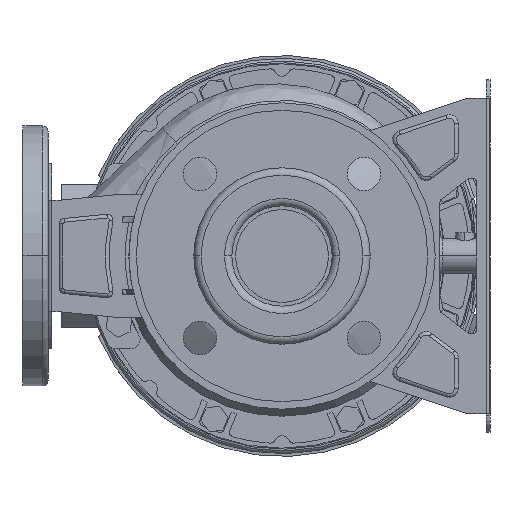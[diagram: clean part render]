
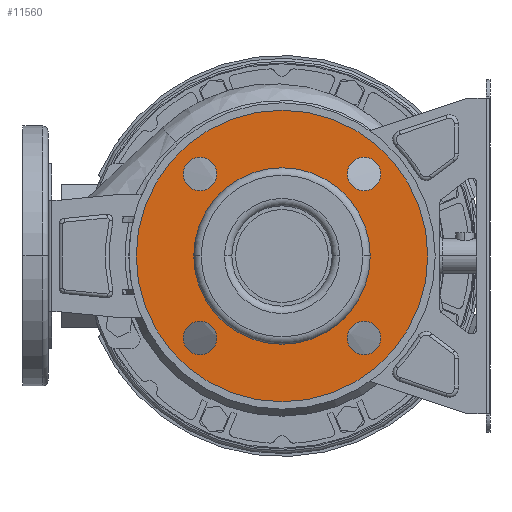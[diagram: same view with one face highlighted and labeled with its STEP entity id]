
A CAD part, left-side view. The second image highlights one B-rep face of the part: STEP entity #11560.
In plain terms, the highlighted planar face has unit normal (-1, 0, 0).
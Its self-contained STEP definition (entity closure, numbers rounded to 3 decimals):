
#10893=CARTESIAN_POINT('',(12.,0.,0.));
#10894=DIRECTION('',(-1.,0.,0.));
#10895=DIRECTION('',(0.,1.,0.));
#10896=AXIS2_PLACEMENT_3D('',#10893,#10894,#10895);
#10901=CARTESIAN_POINT('',(12.,0.,0.));
#10902=DIRECTION('',(1.,0.,0.));
#10903=DIRECTION('',(0.,1.,0.));
#10904=AXIS2_PLACEMENT_3D('',#10901,#10902,#10903);
#10909=CARTESIAN_POINT('',(12.,-44.194,44.194));
#10910=DIRECTION('',(1.,0.,0.));
#10911=DIRECTION('',(0.,1.,0.));
#10912=AXIS2_PLACEMENT_3D('',#10909,#10910,#10911);
#10917=CARTESIAN_POINT('',(12.,-44.194,44.194));
#10918=DIRECTION('',(1.,0.,0.));
#10919=DIRECTION('',(0.,-1.,0.));
#10920=AXIS2_PLACEMENT_3D('',#10917,#10918,#10919);
#10925=CARTESIAN_POINT('',(12.,-44.194,-44.194));
#10926=DIRECTION('',(1.,0.,0.));
#10927=DIRECTION('',(0.,0.,1.));
#10928=AXIS2_PLACEMENT_3D('',#10925,#10926,#10927);
#10933=CARTESIAN_POINT('',(12.,-44.194,-44.194));
#10934=DIRECTION('',(1.,0.,0.));
#10935=DIRECTION('',(0.,0.,-1.));
#10936=AXIS2_PLACEMENT_3D('',#10933,#10934,#10935);
#10941=CARTESIAN_POINT('',(12.,44.194,-44.194));
#10942=DIRECTION('',(1.,0.,0.));
#10943=DIRECTION('',(0.,-1.,0.));
#10944=AXIS2_PLACEMENT_3D('',#10941,#10942,#10943);
#10949=CARTESIAN_POINT('',(12.,44.194,-44.194));
#10950=DIRECTION('',(1.,0.,0.));
#10951=DIRECTION('',(0.,1.,0.));
#10952=AXIS2_PLACEMENT_3D('',#10949,#10950,#10951);
#10957=CARTESIAN_POINT('',(12.,44.194,44.194));
#10958=DIRECTION('',(1.,0.,0.));
#10959=DIRECTION('',(0.,0.,-1.));
#10960=AXIS2_PLACEMENT_3D('',#10957,#10958,#10959);
#10965=CARTESIAN_POINT('',(12.,44.194,44.194));
#10966=DIRECTION('',(1.,0.,0.));
#10967=DIRECTION('',(0.,0.,1.));
#10968=AXIS2_PLACEMENT_3D('',#10965,#10966,#10967);
#10973=CARTESIAN_POINT('',(12.,0.,0.));
#10974=DIRECTION('',(1.,0.,0.));
#10975=DIRECTION('',(0.,1.,0.));
#10976=AXIS2_PLACEMENT_3D('',#10973,#10974,#10975);
#10995=CARTESIAN_POINT('',(12.,0.,0.));
#10996=DIRECTION('',(-1.,0.,0.));
#10997=DIRECTION('',(0.,1.,0.));
#10998=AXIS2_PLACEMENT_3D('',#10995,#10996,#10997);
#11160=CARTESIAN_POINT('',(12.,78.5,0.));
#11162=VERTEX_POINT('',#11160);
#11163=CARTESIAN_POINT('',(12.,47.5,0.));
#11165=VERTEX_POINT('',#11163);
#11192=CARTESIAN_POINT('',(12.,-78.5,0.));
#11194=VERTEX_POINT('',#11192);
#11195=CARTESIAN_POINT('',(12.,-47.5,0.));
#11197=VERTEX_POINT('',#11195);
#11207=CARTESIAN_POINT('',(12.,-35.194,44.194));
#11208=CARTESIAN_POINT('',(12.,-53.194,44.194));
#11209=VERTEX_POINT('',#11207);
#11210=VERTEX_POINT('',#11208);
#11215=CARTESIAN_POINT('',(12.,-44.194,-35.194));
#11216=CARTESIAN_POINT('',(12.,-44.194,-53.194));
#11217=VERTEX_POINT('',#11215);
#11218=VERTEX_POINT('',#11216);
#11223=CARTESIAN_POINT('',(12.,35.194,-44.194));
#11224=CARTESIAN_POINT('',(12.,53.194,-44.194));
#11225=VERTEX_POINT('',#11223);
#11226=VERTEX_POINT('',#11224);
#11231=CARTESIAN_POINT('',(12.,44.194,35.194));
#11232=CARTESIAN_POINT('',(12.,44.194,53.194));
#11233=VERTEX_POINT('',#11231);
#11234=VERTEX_POINT('',#11232);
#11521=CARTESIAN_POINT('',(12.,0.,0.));
#11522=DIRECTION('',(1.,0.,0.));
#11523=DIRECTION('',(0.,-1.,0.));
#11524=AXIS2_PLACEMENT_3D('',#11521,#11522,#11523);
#11525=PLANE('',#11524);
#11526=ORIENTED_EDGE('',*,*,#11514,.F.);
#11527=ORIENTED_EDGE('',*,*,#11503,.T.);
#11528=EDGE_LOOP('',(#11526,#11527));
#11529=FACE_OUTER_BOUND('',#11528,.F.);
#11531=ORIENTED_EDGE('',*,*,#11530,.F.);
#11533=ORIENTED_EDGE('',*,*,#11532,.T.);
#11534=EDGE_LOOP('',(#11531,#11533));
#11535=FACE_BOUND('',#11534,.F.);
#11537=ORIENTED_EDGE('',*,*,#11536,.F.);
#11539=ORIENTED_EDGE('',*,*,#11538,.F.);
#11540=EDGE_LOOP('',(#11537,#11539));
#11541=FACE_BOUND('',#11540,.F.);
#11543=ORIENTED_EDGE('',*,*,#11542,.F.);
#11545=ORIENTED_EDGE('',*,*,#11544,.F.);
#11546=EDGE_LOOP('',(#11543,#11545));
#11547=FACE_BOUND('',#11546,.F.);
#11549=ORIENTED_EDGE('',*,*,#11548,.F.);
#11551=ORIENTED_EDGE('',*,*,#11550,.F.);
#11552=EDGE_LOOP('',(#11549,#11551));
#11553=FACE_BOUND('',#11552,.F.);
#11555=ORIENTED_EDGE('',*,*,#11554,.F.);
#11557=ORIENTED_EDGE('',*,*,#11556,.F.);
#11558=EDGE_LOOP('',(#11555,#11557));
#11559=FACE_BOUND('',#11558,.F.);
#10897=CIRCLE('',#10896,78.5);
#10905=CIRCLE('',#10904,78.5);
#10913=CIRCLE('',#10912,9.);
#10921=CIRCLE('',#10920,9.);
#10929=CIRCLE('',#10928,9.);
#10937=CIRCLE('',#10936,9.);
#10945=CIRCLE('',#10944,9.);
#10953=CIRCLE('',#10952,9.);
#10961=CIRCLE('',#10960,9.);
#10969=CIRCLE('',#10968,9.);
#10977=CIRCLE('',#10976,47.5);
#10999=CIRCLE('',#10998,47.5);
#11503=EDGE_CURVE('',#11162,#11194,#10905,.T.);
#11514=EDGE_CURVE('',#11162,#11194,#10897,.T.);
#11530=EDGE_CURVE('',#11165,#11197,#10977,.T.);
#11532=EDGE_CURVE('',#11165,#11197,#10999,.T.);
#11536=EDGE_CURVE('',#11209,#11210,#10913,.T.);
#11538=EDGE_CURVE('',#11210,#11209,#10921,.T.);
#11542=EDGE_CURVE('',#11217,#11218,#10929,.T.);
#11544=EDGE_CURVE('',#11218,#11217,#10937,.T.);
#11548=EDGE_CURVE('',#11225,#11226,#10945,.T.);
#11550=EDGE_CURVE('',#11226,#11225,#10953,.T.);
#11554=EDGE_CURVE('',#11233,#11234,#10961,.T.);
#11556=EDGE_CURVE('',#11234,#11233,#10969,.T.);
#11560=ADVANCED_FACE('',(#11529,#11535,#11541,#11547,#11553,#11559),#11525,.F.);
